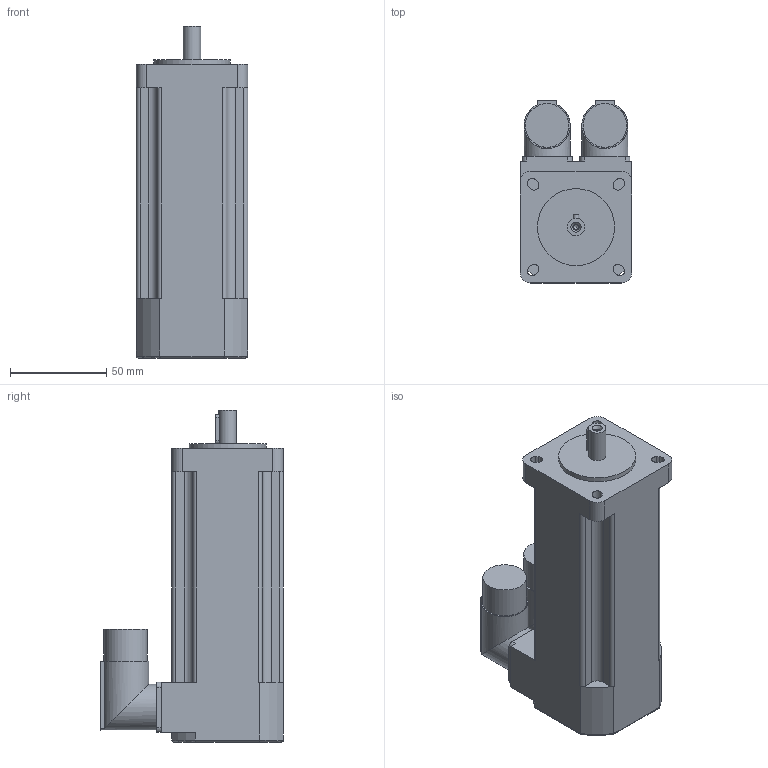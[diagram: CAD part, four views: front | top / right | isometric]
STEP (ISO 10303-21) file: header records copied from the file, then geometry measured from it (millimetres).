
FILE_DESCRIPTION(/* description */ (''),/* implementation_level */ '2;1');
FILE_NAME(/* name */ 'C:\Users\Pastrello_Ylenia\Desktop\Modelli 3D Serad\B28Q\Resolver\Resolver Brake\B2801Qxx6B052000.stp',/* time_stamp */ '2015-06-10T17:04:34+02:00',/* author */ ('Pastrello_Ylenia'),/* organization */ (''),/* preprocessor_version */ 'ST-DEVELOPER v15.6',/* originating_system */ 'Autodesk Inventor 2015',/* authorisation */ '');
FILE_SCHEMA (('AUTOMOTIVE_DESIGN { 1 0 10303 214 3 1 1 }'));
Length unit declared in the file: millimetre
Products named in the file (1): B2801Qxx6B052000
Bounding box: 58 x 95 x 172.5 mm (x, y, z)
Volume: 520810.8 mm3; surface area: 52672.3 mm2
Topology: 1 solids, 1 shells, 140 faces, 374 edges, 243 vertices
Faces by surface type: plane 72, cylinder 62, torus 4, cone 2
Full cylindrical faces by diameter (mm): 2.5 x1, 3.2 x1, 9 x1, 22.7 x2, 24 x2, 40 x1
Entity records: 4441 total; most frequent: CARTESIAN_POINT 879, DIRECTION 757, ORIENTED_EDGE 722, EDGE_CURVE 360, AXIS2_PLACEMENT_3D 268, VERTEX_POINT 240, LINE 221, VECTOR 221
